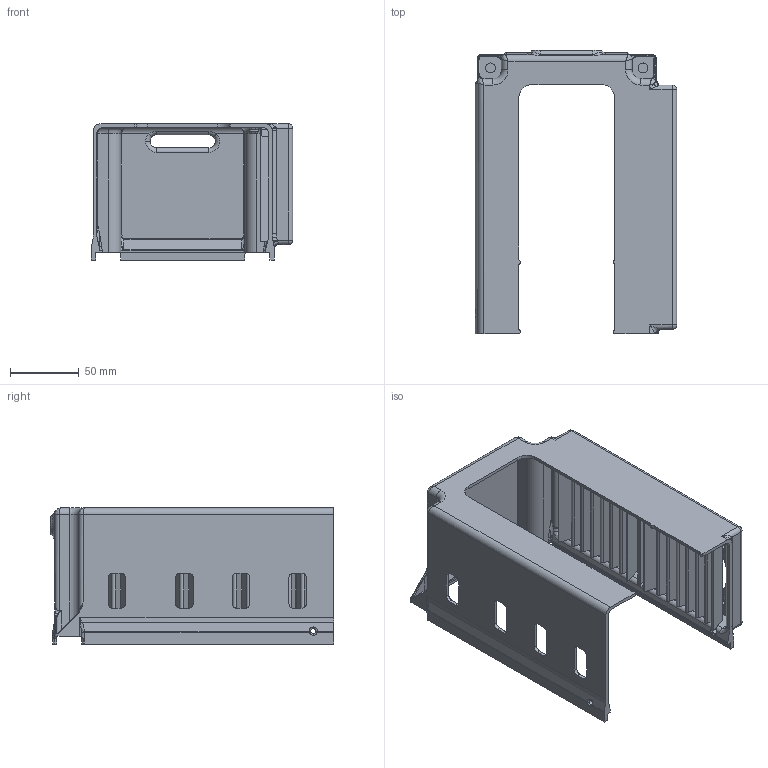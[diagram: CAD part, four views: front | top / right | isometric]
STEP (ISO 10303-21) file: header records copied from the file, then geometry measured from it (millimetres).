
FILE_DESCRIPTION (( 'STEP AP203' ), '1' );
FILE_NAME ('Demon Driver Cover 60mm fans r5.STEP', '2020-01-22T21:34:45', ( '' ), ( '' ), 'SwSTEP 2.0', 'SolidWorks 2017', '' );
FILE_SCHEMA (( 'CONFIG_CONTROL_DESIGN' ));
Length unit declared in the file: inch
Products named in the file (1): Demon Driver Cover 60mm fans r5
Bounding box: 146.76 x 206.38 x 99.22 mm (x, y, z)
Volume: 210911.6 mm3; surface area: 200105.9 mm2
Topology: 3 solids, 3 shells, 1076 faces, 2736 edges, 1615 vertices
Faces by surface type: plane 414, cylinder 379, bspline 105, cone 82, torus 79, sphere 17
Entity records: 34678 total; most frequent: CARTESIAN_POINT 9263, ORIENTED_EDGE 5376, DIRECTION 5339, EDGE_CURVE 2688, AXIS2_PLACEMENT_3D 1899, VERTEX_POINT 1615, LINE 1541, VECTOR 1541
